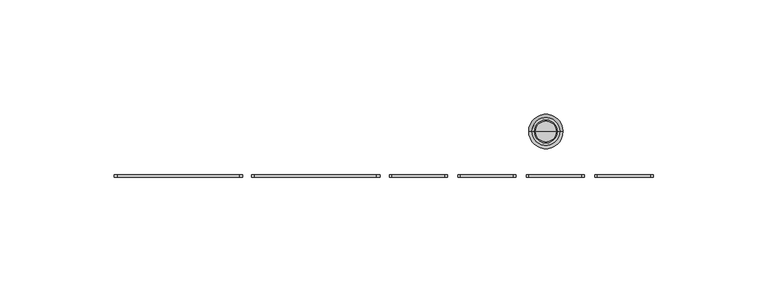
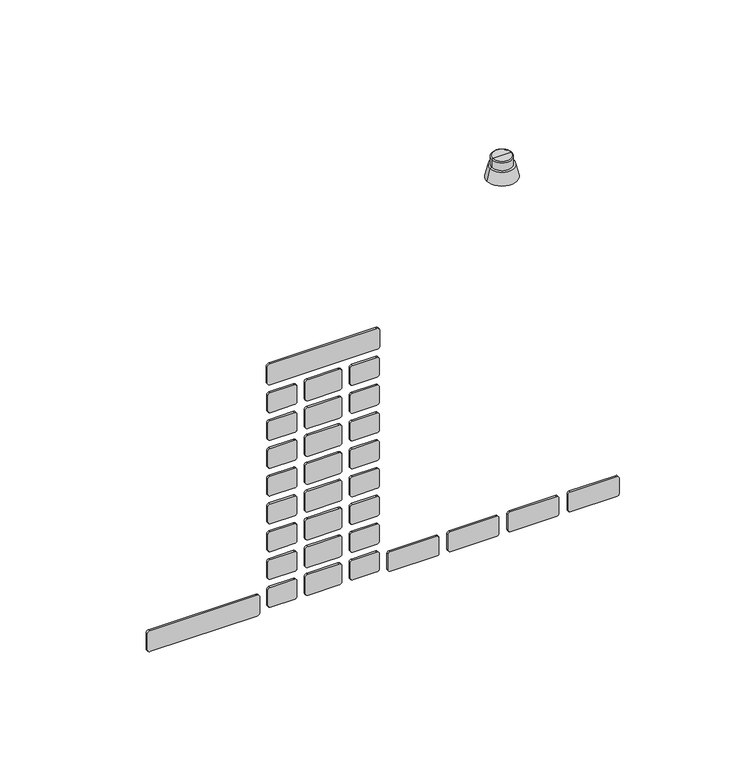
"""IFC4 building model written with IfcOpenShell, lengths in millimetres: alarm geometry, ППД 01_тип модель : ППД 01."""

from ifc_helpers import new_model, si_unit, point, frame, frame_2d, origin, place, context, project, spatial, polyline, circle_curve, ellipse_curve, trimmed, segment, composite_curve, outline, extrude, source, transform, mapped, element, save
from ifc_brep_helpers import plane_surface, cylinder_surface, revolved_surface, advanced_brep


def alarm_1ad1898b(model_context):
    return source(origin(), model_context, "Body", "SolidModel", [
        advanced_brep(
        [(70.7753012, -17.0032651, 0.0), (63.2753012, -17.0032651, 0.0), (78.2753012, -17.0032651, 0.0), (75.2753012, -17.0032651, 11.1), (66.2753012, -17.0032651, 11.1), (70.7753012, -17.0032651, 11.1), (75.7753012, -17.0032651, 10.6), (65.7753012, -17.0032651, 10.6), (75.7753012, -17.0032651, 6.5), (65.7753012, -17.0032651, 6.5), (76.828713, -17.0032651, 6.2674689), (64.7218893, -17.0032651, 6.2674689)],
        [
            (0, 1),
            (1, 2, circle_curve(frame((70.7753012, -17.0032651, 0.0), z_axis=(0.0, 0.0, -1.0), x_axis=(-1.0, 0.0, 0.0)), 7.5)),
            (2, 0),
            (2, 1, circle_curve(frame((70.7753012, -17.0032651, 0.0), z_axis=(0.0, 0.0, -1.0), x_axis=(-1.0, 0.0, 0.0)), 7.5)),
            (3, 4, circle_curve(frame((70.7753012, -17.0032651, 11.1), z_axis=(0.0, 0.0, 1.0), x_axis=(-1.0, 0.0, 0.0)), 4.5)),
            (4, 5),
            (5, 3),
            (4, 3, circle_curve(frame((70.7753012, -17.0032651, 11.1), z_axis=(0.0, 0.0, 1.0), x_axis=(-1.0, 0.0, 0.0)), 4.5)),
            (6, 7, circle_curve(frame((70.7753012, -17.0032651, 10.6), z_axis=(0.0, 0.0, 1.0), x_axis=(-1.0, 0.0, 0.0)), 5.0)),
            (7, 4, circle_curve(frame((66.2753012, -17.0032651, 10.6), z_axis=(0.0, 1.0, 0.0), x_axis=(-1.0, 0.0, 0.0)), 0.5)),
            (3, 6, circle_curve(frame((75.2753012, -17.0032651, 10.6), z_axis=(0.0, 1.0, 0.0), x_axis=(1.0, 0.0, 0.0)), 0.5)),
            (7, 6, circle_curve(frame((70.7753012, -17.0032651, 10.6), z_axis=(0.0, 0.0, 1.0), x_axis=(-1.0, 0.0, 0.0)), 5.0)),
            (8, 9, circle_curve(frame((70.7753012, -17.0032651, 6.5), z_axis=(0.0, 0.0, 1.0), x_axis=(-1.0, 0.0, 0.0)), 5.0)),
            (9, 7),
            (6, 8),
            (9, 8, circle_curve(frame((70.7753012, -17.0032651, 6.5), z_axis=(0.0, 0.0, 1.0), x_axis=(-1.0, 0.0, 0.0)), 5.0)),
            (10, 11, circle_curve(frame((70.7753012, -17.0032651, 6.2674689), z_axis=(0.0, 0.0, 1.0), x_axis=(-1.0, 0.0, 0.0)), 6.0534118)),
            (11, 9, circle_curve(frame((65.6028808, -17.0032651, 4.7787511), z_axis=(0.0, 1.0, 0.0), x_axis=(1.0, 0.0, 0.0)), 1.7298631)),
            (8, 10, circle_curve(frame((75.9477216, -17.0032651, 4.7787511), z_axis=(0.0, 1.0, 0.0), x_axis=(-1.0, 0.0, 0.0)), 1.7298631)),
            (11, 10, circle_curve(frame((70.7753012, -17.0032651, 6.2674689), z_axis=(0.0, 0.0, 1.0), x_axis=(-1.0, 0.0, 0.0)), 6.0534118)),
            (1, 11),
            (10, 2),
        ],
        [
            plane_surface(frame((70.7753012, -17.0032651, 0.0), z_axis=(0.0, 0.0, -1.0), x_axis=(-1.0, 0.0, 0.0))),
            plane_surface(frame((70.7753012, -17.0032651, 11.1), z_axis=(0.0, 0.0, 1.0), x_axis=(-1.0, 0.0, 0.0))),
            revolved_surface(trimmed(ellipse_curve(frame((66.2753012, -17.0032651, 10.6), z_axis=(0.0, -1.0, 0.0), x_axis=(-1.0, 0.0, 0.0)), 0.5, 0.5), [point((66.2753012, -17.0032651, 11.1))], [point((65.7753012, -17.0032651, 10.6))], True, "CARTESIAN"), (70.7753012, -17.0032651, 11.0), (0.0, 0.0, -1.0)),
            cylinder_surface(frame((70.7753012, -17.0032651, 11.0), z_axis=(0.0, 0.0, -1.0), x_axis=(-1.0, 0.0, 0.0)), 5.0),
            revolved_surface(trimmed(ellipse_curve(frame((65.6028808, -17.0032651, 4.7787511), z_axis=(0.0, -1.0, 0.0), x_axis=(1.0, 0.0, 0.0)), 1.7298631, 1.7298631), [point((65.7753012, -17.0032651, 6.5))], [point((64.7218893, -17.0032651, 6.2674689))], True, "CARTESIAN"), (70.7753012, -17.0032651, 11.0), (0.0, 0.0, -1.0)),
            revolved_surface(polyline([(64.7218893, -17.0032651, 6.2674689), (63.2753012, -17.0032651, 0.0)]), (70.7753012, -17.0032651, 11.0), (0.0, 0.0, -1.0)),
        ],
        [
            (0, [[1, 2, 3]]),
            (0, [[-3, 4, -1]]),
            (1, [[5, 6, 7]]),
            (1, [[8, -7, -6]]),
            (2, [[9, 10, -5, 11]]),
            (2, [[12, -11, -8, -10]]),
            (3, [[13, 14, -9, 15]]),
            (3, [[16, -15, -12, -14]]),
            (4, [[17, 18, -13, 19]]),
            (4, [[20, -19, -16, -18]]),
            (5, [[-2, 21, -17, 22]]),
            (5, [[-4, -22, -20, -21]]),
        ],
    ),
        extrude(outline(composite_curve([segment(polyline([(-52.1038728, -1.8554259), (-43.765464, -1.8554259)]), True, "CONTINUOUS"), segment(trimmed(circle_curve(frame_2d((-43.7985577, -3.2201297)), 1.365105), [point((-43.765464, -1.8554259))], [point((-42.4346684, -3.2777299))], False, "CARTESIAN"), True, "CONTINUOUS"), segment(polyline([(-42.4346684, -3.2777299), (-42.4346684, -56.5484203)]), True, "CONTINUOUS"), segment(trimmed(circle_curve(frame_2d((-43.7985577, -56.6060205)), 1.365105), [point((-42.4346684, -56.5484203))], [point((-43.765464, -57.9707243))], False, "CARTESIAN"), True, "CONTINUOUS"), segment(polyline([(-43.765464, -57.9707243), (-52.1038728, -57.9707243)]), True, "CONTINUOUS"), segment(trimmed(circle_curve(frame_2d((-52.0227494, -56.5610809)), 1.4119758), [point((-52.1038728, -57.9707243))], [point((-53.4346684, -56.5484203))], False, "CARTESIAN"), True, "CONTINUOUS"), segment(polyline([(-53.4346684, -56.5484203), (-53.4346684, -3.2777299)]), True, "CONTINUOUS"), segment(trimmed(circle_curve(frame_2d((-52.0707791, -3.2201297)), 1.365105), [point((-53.4346684, -3.2777299))], [point((-52.1038728, -1.8554259))], False, "CARTESIAN"), True, "CONTINUOUS")], self_intersect=False)), frame((0.0, -37.0, 0.0), z_axis=(0.0, 1.0, 0.0), x_axis=(0.0, 0.0, 1.0)), (0.0, 0.0, 1.0), 1.0),
        extrude(outline(composite_curve([segment(trimmed(circle_curve(frame_2d((-169.8360072, -37.7013738)), 1.3871535), [point((-169.959734, -39.0829984))], [point((-171.2226684, -37.6644203))], False, "CARTESIAN"), True, "CONTINUOUS"), segment(polyline([(-171.2226684, -37.6644203), (-171.2158127, -21.9839662)]), True, "CONTINUOUS"), segment(trimmed(circle_curve(frame_2d((-169.8457677, -22.0793086)), 1.3733585), [point((-171.2158127, -21.9839662))], [point((-169.8918728, -20.7067243))], False, "CARTESIAN"), True, "CONTINUOUS"), segment(polyline([(-169.8918728, -20.7067243), (-161.4180396, -20.7139774)]), True, "CONTINUOUS"), segment(trimmed(circle_curve(frame_2d((-161.6187815, -22.0959784)), 1.3965042), [point((-161.4180396, -20.7139774))], [point((-160.2226684, -22.1290283))], False, "CARTESIAN"), True, "CONTINUOUS"), segment(polyline([(-160.2226684, -22.1290283), (-160.2226684, -37.6644203)]), True, "CONTINUOUS"), segment(trimmed(circle_curve(frame_2d((-161.6063453, -37.7035059)), 1.3842289), [point((-160.2226684, -37.6644203))], [point((-161.4919336, -39.0829984))], False, "CARTESIAN"), True, "CONTINUOUS"), segment(polyline([(-161.4919336, -39.0829984), (-169.959734, -39.0829984)]), True, "CONTINUOUS")], self_intersect=False)), frame((0.0, -37.0, 0.0), z_axis=(0.0, 1.0, 0.0), x_axis=(0.0, 0.0, 1.0)), (0.0, 0.0, 1.0), 1.0),
        extrude(outline(composite_curve([segment(polyline([(-169.8918728, -43.2707243), (-161.553464, -43.2707243)]), True, "CONTINUOUS"), segment(trimmed(circle_curve(frame_2d((-161.701105, -44.4432617)), 1.1817961), [point((-161.553464, -43.2707243))], [point((-160.5226684, -44.3542159))], False, "CARTESIAN"), True, "CONTINUOUS"), segment(polyline([(-160.5226684, -44.3542159), (-160.5226684, -56.5872327)]), True, "CONTINUOUS"), segment(trimmed(circle_curve(frame_2d((-161.701105, -56.4981868)), 1.1817961), [point((-160.5226684, -56.5872327))], [point((-161.553464, -57.6707243))], False, "CARTESIAN"), True, "CONTINUOUS"), segment(polyline([(-161.553464, -57.6707243), (-169.8918728, -57.6707243)]), True, "CONTINUOUS"), segment(trimmed(circle_curve(frame_2d((-169.7442318, -56.4981868)), 1.1817961), [point((-169.8918728, -57.6707243))], [point((-170.9226684, -56.5872327))], False, "CARTESIAN"), True, "CONTINUOUS"), segment(polyline([(-170.9226684, -56.5872327), (-170.9226684, -44.3542159)]), True, "CONTINUOUS"), segment(trimmed(circle_curve(frame_2d((-169.7442318, -44.4432617)), 1.1817961), [point((-170.9226684, -44.3542159))], [point((-169.8918728, -43.2707243))], False, "CARTESIAN"), True, "CONTINUOUS")], self_intersect=False)), frame((0.0, -37.0, 0.0), z_axis=(0.0, 1.0, 0.0), x_axis=(0.0, 0.0, 1.0)), (0.0, 0.0, 1.0), 1.0),
        extrude(outline(composite_curve([segment(polyline([(-161.553464, -16.5227243), (-169.8918728, -16.5227243)]), True, "CONTINUOUS"), segment(trimmed(circle_curve(frame_2d((-169.7442318, -15.3501868)), 1.1817961), [point((-169.8918728, -16.5227243))], [point((-170.9226684, -15.4392327))], False, "CARTESIAN"), True, "CONTINUOUS"), segment(polyline([(-170.9226684, -15.4392327), (-170.9226684, -3.2062159)]), True, "CONTINUOUS"), segment(trimmed(circle_curve(frame_2d((-169.7442318, -3.2952617)), 1.1817961), [point((-170.9226684, -3.2062159))], [point((-169.8918728, -2.1227243))], False, "CARTESIAN"), True, "CONTINUOUS"), segment(polyline([(-169.8918728, -2.1227243), (-161.553464, -2.1227243)]), True, "CONTINUOUS"), segment(trimmed(circle_curve(frame_2d((-161.701105, -3.2952617)), 1.1817961), [point((-161.553464, -2.1227243))], [point((-160.5226684, -3.2062159))], False, "CARTESIAN"), True, "CONTINUOUS"), segment(polyline([(-160.5226684, -3.2062159), (-160.5226684, -15.4392327)]), True, "CONTINUOUS"), segment(trimmed(circle_curve(frame_2d((-161.701105, -15.3501868)), 1.1817961), [point((-160.5226684, -15.4392327))], [point((-161.553464, -16.5227243))], False, "CARTESIAN"), True, "CONTINUOUS")], self_intersect=False)), frame((0.0, -37.0, 0.0), z_axis=(0.0, 1.0, 0.0), x_axis=(0.0, 0.0, 1.0)), (0.0, 0.0, 1.0), 1.0),
        extrude(outline(composite_curve([segment(trimmed(circle_curve(frame_2d((-155.1500072, -37.7013738)), 1.3871535), [point((-155.273734, -39.0829984))], [point((-156.5366684, -37.6644203))], False, "CARTESIAN"), True, "CONTINUOUS"), segment(polyline([(-156.5366684, -37.6644203), (-156.5298127, -21.9839662)]), True, "CONTINUOUS"), segment(trimmed(circle_curve(frame_2d((-155.1597677, -22.0793086)), 1.3733585), [point((-156.5298127, -21.9839662))], [point((-155.2058728, -20.7067243))], False, "CARTESIAN"), True, "CONTINUOUS"), segment(polyline([(-155.2058728, -20.7067243), (-146.7320396, -20.7139774)]), True, "CONTINUOUS"), segment(trimmed(circle_curve(frame_2d((-146.9327815, -22.0959784)), 1.3965042), [point((-146.7320396, -20.7139774))], [point((-145.5366684, -22.1290283))], False, "CARTESIAN"), True, "CONTINUOUS"), segment(polyline([(-145.5366684, -22.1290283), (-145.5366684, -37.6644203)]), True, "CONTINUOUS"), segment(trimmed(circle_curve(frame_2d((-146.9203453, -37.7035059)), 1.3842289), [point((-145.5366684, -37.6644203))], [point((-146.8059336, -39.0829984))], False, "CARTESIAN"), True, "CONTINUOUS"), segment(polyline([(-146.8059336, -39.0829984), (-155.273734, -39.0829984)]), True, "CONTINUOUS")], self_intersect=False)), frame((0.0, -37.0, 0.0), z_axis=(0.0, 1.0, 0.0), x_axis=(0.0, 0.0, 1.0)), (0.0, 0.0, 1.0), 1.0),
        extrude(outline(composite_curve([segment(polyline([(-155.2058728, -43.2707243), (-146.867464, -43.2707243)]), True, "CONTINUOUS"), segment(trimmed(circle_curve(frame_2d((-147.015105, -44.4432617)), 1.1817961), [point((-146.867464, -43.2707243))], [point((-145.8366684, -44.3542159))], False, "CARTESIAN"), True, "CONTINUOUS"), segment(polyline([(-145.8366684, -44.3542159), (-145.8366684, -56.5872327)]), True, "CONTINUOUS"), segment(trimmed(circle_curve(frame_2d((-147.015105, -56.4981868)), 1.1817961), [point((-145.8366684, -56.5872327))], [point((-146.867464, -57.6707243))], False, "CARTESIAN"), True, "CONTINUOUS"), segment(polyline([(-146.867464, -57.6707243), (-155.2058728, -57.6707243)]), True, "CONTINUOUS"), segment(trimmed(circle_curve(frame_2d((-155.0582318, -56.4981868)), 1.1817961), [point((-155.2058728, -57.6707243))], [point((-156.2366684, -56.5872327))], False, "CARTESIAN"), True, "CONTINUOUS"), segment(polyline([(-156.2366684, -56.5872327), (-156.2366684, -44.3542159)]), True, "CONTINUOUS"), segment(trimmed(circle_curve(frame_2d((-155.0582318, -44.4432617)), 1.1817961), [point((-156.2366684, -44.3542159))], [point((-155.2058728, -43.2707243))], False, "CARTESIAN"), True, "CONTINUOUS")], self_intersect=False)), frame((0.0, -37.0, 0.0), z_axis=(0.0, 1.0, 0.0), x_axis=(0.0, 0.0, 1.0)), (0.0, 0.0, 1.0), 1.0),
        extrude(outline(composite_curve([segment(polyline([(-146.867464, -16.5227243), (-155.2058728, -16.5227243)]), True, "CONTINUOUS"), segment(trimmed(circle_curve(frame_2d((-155.0582318, -15.3501868)), 1.1817961), [point((-155.2058728, -16.5227243))], [point((-156.2366684, -15.4392327))], False, "CARTESIAN"), True, "CONTINUOUS"), segment(polyline([(-156.2366684, -15.4392327), (-156.2366684, -3.2062159)]), True, "CONTINUOUS"), segment(trimmed(circle_curve(frame_2d((-155.0582318, -3.2952617)), 1.1817961), [point((-156.2366684, -3.2062159))], [point((-155.2058728, -2.1227243))], False, "CARTESIAN"), True, "CONTINUOUS"), segment(polyline([(-155.2058728, -2.1227243), (-146.867464, -2.1227243)]), True, "CONTINUOUS"), segment(trimmed(circle_curve(frame_2d((-147.015105, -3.2952617)), 1.1817961), [point((-146.867464, -2.1227243))], [point((-145.8366684, -3.2062159))], False, "CARTESIAN"), True, "CONTINUOUS"), segment(polyline([(-145.8366684, -3.2062159), (-145.8366684, -15.4392327)]), True, "CONTINUOUS"), segment(trimmed(circle_curve(frame_2d((-147.015105, -15.3501868)), 1.1817961), [point((-145.8366684, -15.4392327))], [point((-146.867464, -16.5227243))], False, "CARTESIAN"), True, "CONTINUOUS")], self_intersect=False)), frame((0.0, -37.0, 0.0), z_axis=(0.0, 1.0, 0.0), x_axis=(0.0, 0.0, 1.0)), (0.0, 0.0, 1.0), 1.0),
        extrude(outline(composite_curve([segment(trimmed(circle_curve(frame_2d((-140.4640072, -37.7013738)), 1.3871535), [point((-140.587734, -39.0829984))], [point((-141.8506684, -37.6644203))], False, "CARTESIAN"), True, "CONTINUOUS"), segment(polyline([(-141.8506684, -37.6644203), (-141.8438127, -21.9839662)]), True, "CONTINUOUS"), segment(trimmed(circle_curve(frame_2d((-140.4737677, -22.0793086)), 1.3733585), [point((-141.8438127, -21.9839662))], [point((-140.5198728, -20.7067243))], False, "CARTESIAN"), True, "CONTINUOUS"), segment(polyline([(-140.5198728, -20.7067243), (-132.0460396, -20.7139774)]), True, "CONTINUOUS"), segment(trimmed(circle_curve(frame_2d((-132.2467815, -22.0959784)), 1.3965042), [point((-132.0460396, -20.7139774))], [point((-130.8506684, -22.1290283))], False, "CARTESIAN"), True, "CONTINUOUS"), segment(polyline([(-130.8506684, -22.1290283), (-130.8506684, -37.6644203)]), True, "CONTINUOUS"), segment(trimmed(circle_curve(frame_2d((-132.2343453, -37.7035059)), 1.3842289), [point((-130.8506684, -37.6644203))], [point((-132.1199336, -39.0829984))], False, "CARTESIAN"), True, "CONTINUOUS"), segment(polyline([(-132.1199336, -39.0829984), (-140.587734, -39.0829984)]), True, "CONTINUOUS")], self_intersect=False)), frame((0.0, -37.0, 0.0), z_axis=(0.0, 1.0, 0.0), x_axis=(0.0, 0.0, 1.0)), (0.0, 0.0, 1.0), 1.0),
        extrude(outline(composite_curve([segment(polyline([(-140.5198728, -43.2707243), (-132.181464, -43.2707243)]), True, "CONTINUOUS"), segment(trimmed(circle_curve(frame_2d((-132.329105, -44.4432617)), 1.1817961), [point((-132.181464, -43.2707243))], [point((-131.1506684, -44.3542159))], False, "CARTESIAN"), True, "CONTINUOUS"), segment(polyline([(-131.1506684, -44.3542159), (-131.1506684, -56.5872327)]), True, "CONTINUOUS"), segment(trimmed(circle_curve(frame_2d((-132.329105, -56.4981868)), 1.1817961), [point((-131.1506684, -56.5872327))], [point((-132.181464, -57.6707243))], False, "CARTESIAN"), True, "CONTINUOUS"), segment(polyline([(-132.181464, -57.6707243), (-140.5198728, -57.6707243)]), True, "CONTINUOUS"), segment(trimmed(circle_curve(frame_2d((-140.3722318, -56.4981868)), 1.1817961), [point((-140.5198728, -57.6707243))], [point((-141.5506684, -56.5872327))], False, "CARTESIAN"), True, "CONTINUOUS"), segment(polyline([(-141.5506684, -56.5872327), (-141.5506684, -44.3542159)]), True, "CONTINUOUS"), segment(trimmed(circle_curve(frame_2d((-140.3722318, -44.4432617)), 1.1817961), [point((-141.5506684, -44.3542159))], [point((-140.5198728, -43.2707243))], False, "CARTESIAN"), True, "CONTINUOUS")], self_intersect=False)), frame((0.0, -37.0, 0.0), z_axis=(0.0, 1.0, 0.0), x_axis=(0.0, 0.0, 1.0)), (0.0, 0.0, 1.0), 1.0),
        extrude(outline(composite_curve([segment(polyline([(-132.181464, -16.5227243), (-140.5198728, -16.5227243)]), True, "CONTINUOUS"), segment(trimmed(circle_curve(frame_2d((-140.3722318, -15.3501868)), 1.1817961), [point((-140.5198728, -16.5227243))], [point((-141.5506684, -15.4392327))], False, "CARTESIAN"), True, "CONTINUOUS"), segment(polyline([(-141.5506684, -15.4392327), (-141.5506684, -3.2062159)]), True, "CONTINUOUS"), segment(trimmed(circle_curve(frame_2d((-140.3722318, -3.2952617)), 1.1817961), [point((-141.5506684, -3.2062159))], [point((-140.5198728, -2.1227243))], False, "CARTESIAN"), True, "CONTINUOUS"), segment(polyline([(-140.5198728, -2.1227243), (-132.181464, -2.1227243)]), True, "CONTINUOUS"), segment(trimmed(circle_curve(frame_2d((-132.329105, -3.2952617)), 1.1817961), [point((-132.181464, -2.1227243))], [point((-131.1506684, -3.2062159))], False, "CARTESIAN"), True, "CONTINUOUS"), segment(polyline([(-131.1506684, -3.2062159), (-131.1506684, -15.4392327)]), True, "CONTINUOUS"), segment(trimmed(circle_curve(frame_2d((-132.329105, -15.3501868)), 1.1817961), [point((-131.1506684, -15.4392327))], [point((-132.181464, -16.5227243))], False, "CARTESIAN"), True, "CONTINUOUS")], self_intersect=False)), frame((0.0, -37.0, 0.0), z_axis=(0.0, 1.0, 0.0), x_axis=(0.0, 0.0, 1.0)), (0.0, 0.0, 1.0), 1.0),
        extrude(outline(composite_curve([segment(trimmed(circle_curve(frame_2d((-125.7780072, -37.7013738)), 1.3871535), [point((-125.901734, -39.0829984))], [point((-127.1646684, -37.6644203))], False, "CARTESIAN"), True, "CONTINUOUS"), segment(polyline([(-127.1646684, -37.6644203), (-127.1578127, -21.9839662)]), True, "CONTINUOUS"), segment(trimmed(circle_curve(frame_2d((-125.7877677, -22.0793086)), 1.3733585), [point((-127.1578127, -21.9839662))], [point((-125.8338728, -20.7067243))], False, "CARTESIAN"), True, "CONTINUOUS"), segment(polyline([(-125.8338728, -20.7067243), (-117.3600396, -20.7139774)]), True, "CONTINUOUS"), segment(trimmed(circle_curve(frame_2d((-117.5607815, -22.0959784)), 1.3965042), [point((-117.3600396, -20.7139774))], [point((-116.1646684, -22.1290283))], False, "CARTESIAN"), True, "CONTINUOUS"), segment(polyline([(-116.1646684, -22.1290283), (-116.1646684, -37.6644203)]), True, "CONTINUOUS"), segment(trimmed(circle_curve(frame_2d((-117.5483453, -37.7035059)), 1.3842289), [point((-116.1646684, -37.6644203))], [point((-117.4339336, -39.0829984))], False, "CARTESIAN"), True, "CONTINUOUS"), segment(polyline([(-117.4339336, -39.0829984), (-125.901734, -39.0829984)]), True, "CONTINUOUS")], self_intersect=False)), frame((0.0, -37.0, 0.0), z_axis=(0.0, 1.0, 0.0), x_axis=(0.0, 0.0, 1.0)), (0.0, 0.0, 1.0), 1.0),
        extrude(outline(composite_curve([segment(polyline([(-125.8338728, -43.2707243), (-117.495464, -43.2707243)]), True, "CONTINUOUS"), segment(trimmed(circle_curve(frame_2d((-117.643105, -44.4432617)), 1.1817961), [point((-117.495464, -43.2707243))], [point((-116.4646684, -44.3542159))], False, "CARTESIAN"), True, "CONTINUOUS"), segment(polyline([(-116.4646684, -44.3542159), (-116.4646684, -56.5872327)]), True, "CONTINUOUS"), segment(trimmed(circle_curve(frame_2d((-117.643105, -56.4981868)), 1.1817961), [point((-116.4646684, -56.5872327))], [point((-117.495464, -57.6707243))], False, "CARTESIAN"), True, "CONTINUOUS"), segment(polyline([(-117.495464, -57.6707243), (-125.8338728, -57.6707243)]), True, "CONTINUOUS"), segment(trimmed(circle_curve(frame_2d((-125.6862318, -56.4981868)), 1.1817961), [point((-125.8338728, -57.6707243))], [point((-126.8646684, -56.5872327))], False, "CARTESIAN"), True, "CONTINUOUS"), segment(polyline([(-126.8646684, -56.5872327), (-126.8646684, -44.3542159)]), True, "CONTINUOUS"), segment(trimmed(circle_curve(frame_2d((-125.6862318, -44.4432617)), 1.1817961), [point((-126.8646684, -44.3542159))], [point((-125.8338728, -43.2707243))], False, "CARTESIAN"), True, "CONTINUOUS")], self_intersect=False)), frame((0.0, -37.0, 0.0), z_axis=(0.0, 1.0, 0.0), x_axis=(0.0, 0.0, 1.0)), (0.0, 0.0, 1.0), 1.0),
        extrude(outline(composite_curve([segment(polyline([(-117.495464, -16.5227243), (-125.8338728, -16.5227243)]), True, "CONTINUOUS"), segment(trimmed(circle_curve(frame_2d((-125.6862318, -15.3501868)), 1.1817961), [point((-125.8338728, -16.5227243))], [point((-126.8646684, -15.4392327))], False, "CARTESIAN"), True, "CONTINUOUS"), segment(polyline([(-126.8646684, -15.4392327), (-126.8646684, -3.2062159)]), True, "CONTINUOUS"), segment(trimmed(circle_curve(frame_2d((-125.6862318, -3.2952617)), 1.1817961), [point((-126.8646684, -3.2062159))], [point((-125.8338728, -2.1227243))], False, "CARTESIAN"), True, "CONTINUOUS"), segment(polyline([(-125.8338728, -2.1227243), (-117.495464, -2.1227243)]), True, "CONTINUOUS"), segment(trimmed(circle_curve(frame_2d((-117.643105, -3.2952617)), 1.1817961), [point((-117.495464, -2.1227243))], [point((-116.4646684, -3.2062159))], False, "CARTESIAN"), True, "CONTINUOUS"), segment(polyline([(-116.4646684, -3.2062159), (-116.4646684, -15.4392327)]), True, "CONTINUOUS"), segment(trimmed(circle_curve(frame_2d((-117.643105, -15.3501868)), 1.1817961), [point((-116.4646684, -15.4392327))], [point((-117.495464, -16.5227243))], False, "CARTESIAN"), True, "CONTINUOUS")], self_intersect=False)), frame((0.0, -37.0, 0.0), z_axis=(0.0, 1.0, 0.0), x_axis=(0.0, 0.0, 1.0)), (0.0, 0.0, 1.0), 1.0),
        extrude(outline(composite_curve([segment(trimmed(circle_curve(frame_2d((-111.0920072, -37.7013738)), 1.3871535), [point((-111.215734, -39.0829984))], [point((-112.4786684, -37.6644203))], False, "CARTESIAN"), True, "CONTINUOUS"), segment(polyline([(-112.4786684, -37.6644203), (-112.4718127, -21.9839662)]), True, "CONTINUOUS"), segment(trimmed(circle_curve(frame_2d((-111.1017677, -22.0793086)), 1.3733585), [point((-112.4718127, -21.9839662))], [point((-111.1478728, -20.7067243))], False, "CARTESIAN"), True, "CONTINUOUS"), segment(polyline([(-111.1478728, -20.7067243), (-102.6740396, -20.7139774)]), True, "CONTINUOUS"), segment(trimmed(circle_curve(frame_2d((-102.8747815, -22.0959784)), 1.3965042), [point((-102.6740396, -20.7139774))], [point((-101.4786684, -22.1290283))], False, "CARTESIAN"), True, "CONTINUOUS"), segment(polyline([(-101.4786684, -22.1290283), (-101.4786684, -37.6644203)]), True, "CONTINUOUS"), segment(trimmed(circle_curve(frame_2d((-102.8623453, -37.7035059)), 1.3842289), [point((-101.4786684, -37.6644203))], [point((-102.7479336, -39.0829984))], False, "CARTESIAN"), True, "CONTINUOUS"), segment(polyline([(-102.7479336, -39.0829984), (-111.215734, -39.0829984)]), True, "CONTINUOUS")], self_intersect=False)), frame((0.0, -37.0, 0.0), z_axis=(0.0, 1.0, 0.0), x_axis=(0.0, 0.0, 1.0)), (0.0, 0.0, 1.0), 1.0),
        extrude(outline(composite_curve([segment(polyline([(-111.1478728, -43.2707243), (-102.809464, -43.2707243)]), True, "CONTINUOUS"), segment(trimmed(circle_curve(frame_2d((-102.957105, -44.4432617)), 1.1817961), [point((-102.809464, -43.2707243))], [point((-101.7786684, -44.3542159))], False, "CARTESIAN"), True, "CONTINUOUS"), segment(polyline([(-101.7786684, -44.3542159), (-101.7786684, -56.5872327)]), True, "CONTINUOUS"), segment(trimmed(circle_curve(frame_2d((-102.957105, -56.4981868)), 1.1817961), [point((-101.7786684, -56.5872327))], [point((-102.809464, -57.6707243))], False, "CARTESIAN"), True, "CONTINUOUS"), segment(polyline([(-102.809464, -57.6707243), (-111.1478728, -57.6707243)]), True, "CONTINUOUS"), segment(trimmed(circle_curve(frame_2d((-111.0002318, -56.4981868)), 1.1817961), [point((-111.1478728, -57.6707243))], [point((-112.1786684, -56.5872327))], False, "CARTESIAN"), True, "CONTINUOUS"), segment(polyline([(-112.1786684, -56.5872327), (-112.1786684, -44.3542159)]), True, "CONTINUOUS"), segment(trimmed(circle_curve(frame_2d((-111.0002318, -44.4432617)), 1.1817961), [point((-112.1786684, -44.3542159))], [point((-111.1478728, -43.2707243))], False, "CARTESIAN"), True, "CONTINUOUS")], self_intersect=False)), frame((0.0, -37.0, 0.0), z_axis=(0.0, 1.0, 0.0), x_axis=(0.0, 0.0, 1.0)), (0.0, 0.0, 1.0), 1.0),
        extrude(outline(composite_curve([segment(polyline([(-102.809464, -16.5227243), (-111.1478728, -16.5227243)]), True, "CONTINUOUS"), segment(trimmed(circle_curve(frame_2d((-111.0002318, -15.3501868)), 1.1817961), [point((-111.1478728, -16.5227243))], [point((-112.1786684, -15.4392327))], False, "CARTESIAN"), True, "CONTINUOUS"), segment(polyline([(-112.1786684, -15.4392327), (-112.1786684, -3.2062159)]), True, "CONTINUOUS"), segment(trimmed(circle_curve(frame_2d((-111.0002318, -3.2952617)), 1.1817961), [point((-112.1786684, -3.2062159))], [point((-111.1478728, -2.1227243))], False, "CARTESIAN"), True, "CONTINUOUS"), segment(polyline([(-111.1478728, -2.1227243), (-102.809464, -2.1227243)]), True, "CONTINUOUS"), segment(trimmed(circle_curve(frame_2d((-102.957105, -3.2952617)), 1.1817961), [point((-102.809464, -2.1227243))], [point((-101.7786684, -3.2062159))], False, "CARTESIAN"), True, "CONTINUOUS"), segment(polyline([(-101.7786684, -3.2062159), (-101.7786684, -15.4392327)]), True, "CONTINUOUS"), segment(trimmed(circle_curve(frame_2d((-102.957105, -15.3501868)), 1.1817961), [point((-101.7786684, -15.4392327))], [point((-102.809464, -16.5227243))], False, "CARTESIAN"), True, "CONTINUOUS")], self_intersect=False)), frame((0.0, -37.0, 0.0), z_axis=(0.0, 1.0, 0.0), x_axis=(0.0, 0.0, 1.0)), (0.0, 0.0, 1.0), 1.0),
        extrude(outline(composite_curve([segment(trimmed(circle_curve(frame_2d((-96.4060072, -37.7013738)), 1.3871535), [point((-96.529734, -39.0829984))], [point((-97.7926684, -37.6644203))], False, "CARTESIAN"), True, "CONTINUOUS"), segment(polyline([(-97.7926684, -37.6644203), (-97.7858127, -21.9839662)]), True, "CONTINUOUS"), segment(trimmed(circle_curve(frame_2d((-96.4157677, -22.0793086)), 1.3733585), [point((-97.7858127, -21.9839662))], [point((-96.4618728, -20.7067243))], False, "CARTESIAN"), True, "CONTINUOUS"), segment(polyline([(-96.4618728, -20.7067243), (-87.9880396, -20.7139774)]), True, "CONTINUOUS"), segment(trimmed(circle_curve(frame_2d((-88.1887815, -22.0959784)), 1.3965042), [point((-87.9880396, -20.7139774))], [point((-86.7926684, -22.1290283))], False, "CARTESIAN"), True, "CONTINUOUS"), segment(polyline([(-86.7926684, -22.1290283), (-86.7926684, -37.6644203)]), True, "CONTINUOUS"), segment(trimmed(circle_curve(frame_2d((-88.1763453, -37.7035059)), 1.3842289), [point((-86.7926684, -37.6644203))], [point((-88.0619336, -39.0829984))], False, "CARTESIAN"), True, "CONTINUOUS"), segment(polyline([(-88.0619336, -39.0829984), (-96.529734, -39.0829984)]), True, "CONTINUOUS")], self_intersect=False)), frame((0.0, -37.0, 0.0), z_axis=(0.0, 1.0, 0.0), x_axis=(0.0, 0.0, 1.0)), (0.0, 0.0, 1.0), 1.0),
        extrude(outline(composite_curve([segment(polyline([(-96.4618728, -43.2707243), (-88.123464, -43.2707243)]), True, "CONTINUOUS"), segment(trimmed(circle_curve(frame_2d((-88.271105, -44.4432617)), 1.1817961), [point((-88.123464, -43.2707243))], [point((-87.0926684, -44.3542159))], False, "CARTESIAN"), True, "CONTINUOUS"), segment(polyline([(-87.0926684, -44.3542159), (-87.0926684, -56.5872327)]), True, "CONTINUOUS"), segment(trimmed(circle_curve(frame_2d((-88.271105, -56.4981868)), 1.1817961), [point((-87.0926684, -56.5872327))], [point((-88.123464, -57.6707243))], False, "CARTESIAN"), True, "CONTINUOUS"), segment(polyline([(-88.123464, -57.6707243), (-96.4618728, -57.6707243)]), True, "CONTINUOUS"), segment(trimmed(circle_curve(frame_2d((-96.3142318, -56.4981868)), 1.1817961), [point((-96.4618728, -57.6707243))], [point((-97.4926684, -56.5872327))], False, "CARTESIAN"), True, "CONTINUOUS"), segment(polyline([(-97.4926684, -56.5872327), (-97.4926684, -44.3542159)]), True, "CONTINUOUS"), segment(trimmed(circle_curve(frame_2d((-96.3142318, -44.4432617)), 1.1817961), [point((-97.4926684, -44.3542159))], [point((-96.4618728, -43.2707243))], False, "CARTESIAN"), True, "CONTINUOUS")], self_intersect=False)), frame((0.0, -37.0, 0.0), z_axis=(0.0, 1.0, 0.0), x_axis=(0.0, 0.0, 1.0)), (0.0, 0.0, 1.0), 1.0),
        extrude(outline(composite_curve([segment(polyline([(-88.123464, -16.5227243), (-96.4618728, -16.5227243)]), True, "CONTINUOUS"), segment(trimmed(circle_curve(frame_2d((-96.3142318, -15.3501868)), 1.1817961), [point((-96.4618728, -16.5227243))], [point((-97.4926684, -15.4392327))], False, "CARTESIAN"), True, "CONTINUOUS"), segment(polyline([(-97.4926684, -15.4392327), (-97.4926684, -3.2062159)]), True, "CONTINUOUS"), segment(trimmed(circle_curve(frame_2d((-96.3142318, -3.2952617)), 1.1817961), [point((-97.4926684, -3.2062159))], [point((-96.4618728, -2.1227243))], False, "CARTESIAN"), True, "CONTINUOUS"), segment(polyline([(-96.4618728, -2.1227243), (-88.123464, -2.1227243)]), True, "CONTINUOUS"), segment(trimmed(circle_curve(frame_2d((-88.271105, -3.2952617)), 1.1817961), [point((-88.123464, -2.1227243))], [point((-87.0926684, -3.2062159))], False, "CARTESIAN"), True, "CONTINUOUS"), segment(polyline([(-87.0926684, -3.2062159), (-87.0926684, -15.4392327)]), True, "CONTINUOUS"), segment(trimmed(circle_curve(frame_2d((-88.271105, -15.3501868)), 1.1817961), [point((-87.0926684, -15.4392327))], [point((-88.123464, -16.5227243))], False, "CARTESIAN"), True, "CONTINUOUS")], self_intersect=False)), frame((0.0, -37.0, 0.0), z_axis=(0.0, 1.0, 0.0), x_axis=(0.0, 0.0, 1.0)), (0.0, 0.0, 1.0), 1.0),
        extrude(outline(composite_curve([segment(trimmed(circle_curve(frame_2d((-81.7200072, -37.7013738)), 1.3871535), [point((-81.843734, -39.0829984))], [point((-83.1066684, -37.6644203))], False, "CARTESIAN"), True, "CONTINUOUS"), segment(polyline([(-83.1066684, -37.6644203), (-83.0998127, -21.9839662)]), True, "CONTINUOUS"), segment(trimmed(circle_curve(frame_2d((-81.7297677, -22.0793086)), 1.3733585), [point((-83.0998127, -21.9839662))], [point((-81.7758728, -20.7067243))], False, "CARTESIAN"), True, "CONTINUOUS"), segment(polyline([(-81.7758728, -20.7067243), (-73.3020396, -20.7139774)]), True, "CONTINUOUS"), segment(trimmed(circle_curve(frame_2d((-73.5027815, -22.0959784)), 1.3965042), [point((-73.3020396, -20.7139774))], [point((-72.1066684, -22.1290283))], False, "CARTESIAN"), True, "CONTINUOUS"), segment(polyline([(-72.1066684, -22.1290283), (-72.1066684, -37.6644203)]), True, "CONTINUOUS"), segment(trimmed(circle_curve(frame_2d((-73.4903453, -37.7035059)), 1.3842289), [point((-72.1066684, -37.6644203))], [point((-73.3759336, -39.0829984))], False, "CARTESIAN"), True, "CONTINUOUS"), segment(polyline([(-73.3759336, -39.0829984), (-81.843734, -39.0829984)]), True, "CONTINUOUS")], self_intersect=False)), frame((0.0, -37.0, 0.0), z_axis=(0.0, 1.0, 0.0), x_axis=(0.0, 0.0, 1.0)), (0.0, 0.0, 1.0), 1.0),
        extrude(outline(composite_curve([segment(polyline([(-81.7758728, -43.2707243), (-73.437464, -43.2707243)]), True, "CONTINUOUS"), segment(trimmed(circle_curve(frame_2d((-73.585105, -44.4432617)), 1.1817961), [point((-73.437464, -43.2707243))], [point((-72.4066684, -44.3542159))], False, "CARTESIAN"), True, "CONTINUOUS"), segment(polyline([(-72.4066684, -44.3542159), (-72.4066684, -56.5872327)]), True, "CONTINUOUS"), segment(trimmed(circle_curve(frame_2d((-73.585105, -56.4981868)), 1.1817961), [point((-72.4066684, -56.5872327))], [point((-73.437464, -57.6707243))], False, "CARTESIAN"), True, "CONTINUOUS"), segment(polyline([(-73.437464, -57.6707243), (-81.7758728, -57.6707243)]), True, "CONTINUOUS"), segment(trimmed(circle_curve(frame_2d((-81.6282318, -56.4981868)), 1.1817961), [point((-81.7758728, -57.6707243))], [point((-82.8066684, -56.5872327))], False, "CARTESIAN"), True, "CONTINUOUS"), segment(polyline([(-82.8066684, -56.5872327), (-82.8066684, -44.3542159)]), True, "CONTINUOUS"), segment(trimmed(circle_curve(frame_2d((-81.6282318, -44.4432617)), 1.1817961), [point((-82.8066684, -44.3542159))], [point((-81.7758728, -43.2707243))], False, "CARTESIAN"), True, "CONTINUOUS")], self_intersect=False)), frame((0.0, -37.0, 0.0), z_axis=(0.0, 1.0, 0.0), x_axis=(0.0, 0.0, 1.0)), (0.0, 0.0, 1.0), 1.0),
        extrude(outline(composite_curve([segment(polyline([(-73.437464, -16.5227243), (-81.7758728, -16.5227243)]), True, "CONTINUOUS"), segment(trimmed(circle_curve(frame_2d((-81.6282318, -15.3501868)), 1.1817961), [point((-81.7758728, -16.5227243))], [point((-82.8066684, -15.4392327))], False, "CARTESIAN"), True, "CONTINUOUS"), segment(polyline([(-82.8066684, -15.4392327), (-82.8066684, -3.2062159)]), True, "CONTINUOUS"), segment(trimmed(circle_curve(frame_2d((-81.6282318, -3.2952617)), 1.1817961), [point((-82.8066684, -3.2062159))], [point((-81.7758728, -2.1227243))], False, "CARTESIAN"), True, "CONTINUOUS"), segment(polyline([(-81.7758728, -2.1227243), (-73.437464, -2.1227243)]), True, "CONTINUOUS"), segment(trimmed(circle_curve(frame_2d((-73.585105, -3.2952617)), 1.1817961), [point((-73.437464, -2.1227243))], [point((-72.4066684, -3.2062159))], False, "CARTESIAN"), True, "CONTINUOUS"), segment(polyline([(-72.4066684, -3.2062159), (-72.4066684, -15.4392327)]), True, "CONTINUOUS"), segment(trimmed(circle_curve(frame_2d((-73.585105, -15.3501868)), 1.1817961), [point((-72.4066684, -15.4392327))], [point((-73.437464, -16.5227243))], False, "CARTESIAN"), True, "CONTINUOUS")], self_intersect=False)), frame((0.0, -37.0, 0.0), z_axis=(0.0, 1.0, 0.0), x_axis=(0.0, 0.0, 1.0)), (0.0, 0.0, 1.0), 1.0),
        extrude(outline(composite_curve([segment(trimmed(circle_curve(frame_2d((-67.0340072, -37.7013738)), 1.3871535), [point((-67.157734, -39.0829984))], [point((-68.4206684, -37.6644203))], False, "CARTESIAN"), True, "CONTINUOUS"), segment(polyline([(-68.4206684, -37.6644203), (-68.4138127, -21.9839662)]), True, "CONTINUOUS"), segment(trimmed(circle_curve(frame_2d((-67.0437677, -22.0793086)), 1.3733585), [point((-68.4138127, -21.9839662))], [point((-67.0898728, -20.7067243))], False, "CARTESIAN"), True, "CONTINUOUS"), segment(polyline([(-67.0898728, -20.7067243), (-58.6160396, -20.7139774)]), True, "CONTINUOUS"), segment(trimmed(circle_curve(frame_2d((-58.8167815, -22.0959784)), 1.3965042), [point((-58.6160396, -20.7139774))], [point((-57.4206684, -22.1290283))], False, "CARTESIAN"), True, "CONTINUOUS"), segment(polyline([(-57.4206684, -22.1290283), (-57.4206684, -37.6644203)]), True, "CONTINUOUS"), segment(trimmed(circle_curve(frame_2d((-58.8043453, -37.7035059)), 1.3842289), [point((-57.4206684, -37.6644203))], [point((-58.6899336, -39.0829984))], False, "CARTESIAN"), True, "CONTINUOUS"), segment(polyline([(-58.6899336, -39.0829984), (-67.157734, -39.0829984)]), True, "CONTINUOUS")], self_intersect=False)), frame((0.0, -37.0, 0.0), z_axis=(0.0, 1.0, 0.0), x_axis=(0.0, 0.0, 1.0)), (0.0, 0.0, 1.0), 1.0),
        extrude(outline(composite_curve([segment(polyline([(-67.0898728, -43.2707243), (-58.751464, -43.2707243)]), True, "CONTINUOUS"), segment(trimmed(circle_curve(frame_2d((-58.899105, -44.4432617)), 1.1817961), [point((-58.751464, -43.2707243))], [point((-57.7206684, -44.3542159))], False, "CARTESIAN"), True, "CONTINUOUS"), segment(polyline([(-57.7206684, -44.3542159), (-57.7206684, -56.5872327)]), True, "CONTINUOUS"), segment(trimmed(circle_curve(frame_2d((-58.899105, -56.4981868)), 1.1817961), [point((-57.7206684, -56.5872327))], [point((-58.751464, -57.6707243))], False, "CARTESIAN"), True, "CONTINUOUS"), segment(polyline([(-58.751464, -57.6707243), (-67.0898728, -57.6707243)]), True, "CONTINUOUS"), segment(trimmed(circle_curve(frame_2d((-66.9422318, -56.4981868)), 1.1817961), [point((-67.0898728, -57.6707243))], [point((-68.1206684, -56.5872327))], False, "CARTESIAN"), True, "CONTINUOUS"), segment(polyline([(-68.1206684, -56.5872327), (-68.1206684, -44.3542159)]), True, "CONTINUOUS"), segment(trimmed(circle_curve(frame_2d((-66.9422318, -44.4432617)), 1.1817961), [point((-68.1206684, -44.3542159))], [point((-67.0898728, -43.2707243))], False, "CARTESIAN"), True, "CONTINUOUS")], self_intersect=False)), frame((0.0, -37.0, 0.0), z_axis=(0.0, 1.0, 0.0), x_axis=(0.0, 0.0, 1.0)), (0.0, 0.0, 1.0), 1.0),
        extrude(outline(composite_curve([segment(polyline([(-58.751464, -16.5227243), (-67.0898728, -16.5227243)]), True, "CONTINUOUS"), segment(trimmed(circle_curve(frame_2d((-66.9422318, -15.3501868)), 1.1817961), [point((-67.0898728, -16.5227243))], [point((-68.1206684, -15.4392327))], False, "CARTESIAN"), True, "CONTINUOUS"), segment(polyline([(-68.1206684, -15.4392327), (-68.1206684, -3.2062159)]), True, "CONTINUOUS"), segment(trimmed(circle_curve(frame_2d((-66.9422318, -3.2952617)), 1.1817961), [point((-68.1206684, -3.2062159))], [point((-67.0898728, -2.1227243))], False, "CARTESIAN"), True, "CONTINUOUS"), segment(polyline([(-67.0898728, -2.1227243), (-58.751464, -2.1227243)]), True, "CONTINUOUS"), segment(trimmed(circle_curve(frame_2d((-58.899105, -3.2952617)), 1.1817961), [point((-58.751464, -2.1227243))], [point((-57.7206684, -3.2062159))], False, "CARTESIAN"), True, "CONTINUOUS"), segment(polyline([(-57.7206684, -3.2062159), (-57.7206684, -15.4392327)]), True, "CONTINUOUS"), segment(trimmed(circle_curve(frame_2d((-58.899105, -15.3501868)), 1.1817961), [point((-57.7206684, -15.4392327))], [point((-58.751464, -16.5227243))], False, "CARTESIAN"), True, "CONTINUOUS")], self_intersect=False)), frame((0.0, -37.0, 0.0), z_axis=(0.0, 1.0, 0.0), x_axis=(0.0, 0.0, 1.0)), (0.0, 0.0, 1.0), 1.0),
        extrude(outline(composite_curve([segment(polyline([(-171.9918728, -61.8547243), (-163.653464, -61.8547243)]), True, "CONTINUOUS"), segment(trimmed(circle_curve(frame_2d((-163.6865577, -63.2194281)), 1.365105), [point((-163.653464, -61.8547243))], [point((-162.3226684, -63.2770283))], False, "CARTESIAN"), True, "CONTINUOUS"), segment(polyline([(-162.3226684, -63.2770283), (-162.3226684, -116.5477186)]), True, "CONTINUOUS"), segment(trimmed(circle_curve(frame_2d((-163.6865577, -116.6053188)), 1.365105), [point((-162.3226684, -116.5477186))], [point((-163.653464, -117.9700226))], False, "CARTESIAN"), True, "CONTINUOUS"), segment(polyline([(-163.653464, -117.9700226), (-171.9918728, -117.9700226)]), True, "CONTINUOUS"), segment(trimmed(circle_curve(frame_2d((-171.9107494, -116.5603792)), 1.4119758), [point((-171.9918728, -117.9700226))], [point((-173.3226684, -116.5477186))], False, "CARTESIAN"), True, "CONTINUOUS"), segment(polyline([(-173.3226684, -116.5477186), (-173.3226684, -63.2770283)]), True, "CONTINUOUS"), segment(trimmed(circle_curve(frame_2d((-171.9587791, -63.2194281)), 1.365105), [point((-173.3226684, -63.2770283))], [point((-171.9918728, -61.8547243))], False, "CARTESIAN"), True, "CONTINUOUS")], self_intersect=False)), frame((0.0, -37.0, 0.0), z_axis=(0.0, 1.0, 0.0), x_axis=(0.0, 0.0, 1.0)), (0.0, 0.0, 1.0), 1.0),
        extrude(outline(composite_curve([segment(polyline([(-171.9918728, 27.7612757), (-163.9082341, 27.7612757)]), True, "CONTINUOUS"), segment(trimmed(circle_curve(frame_2d((-163.8254707, 26.5586381)), 1.205482), [point((-163.9082341, 27.7612757))], [point((-162.6226684, 26.6389717))], False, "CARTESIAN"), True, "CONTINUOUS"), segment(polyline([(-162.6226684, 26.6389717), (-162.6226684, 3.4452053)]), True, "CONTINUOUS"), segment(trimmed(circle_curve(frame_2d((-163.7898777, 3.5226789)), 1.1697777), [point((-162.6226684, 3.4452053))], [point((-163.6501551, 2.3612757))], False, "CARTESIAN"), True, "CONTINUOUS"), segment(polyline([(-163.6501551, 2.3612757), (-171.9918728, 2.3612757)]), True, "CONTINUOUS"), segment(trimmed(circle_curve(frame_2d((-171.8875093, 3.4916561)), 1.1351879), [point((-171.9918728, 2.3612757))], [point((-173.0226684, 3.4835797))], False, "CARTESIAN"), True, "CONTINUOUS"), segment(polyline([(-173.0226684, 3.4835797), (-173.0226684, 26.77742)]), True, "CONTINUOUS"), segment(trimmed(circle_curve(frame_2d((-171.9132646, 26.6470018)), 1.1170432), [point((-173.0226684, 26.77742))], [point((-171.9918728, 27.7612757))], False, "CARTESIAN"), True, "CONTINUOUS")], self_intersect=False)), frame((0.0, -37.0, 0.0), z_axis=(0.0, 1.0, 0.0), x_axis=(0.0, 0.0, 1.0)), (0.0, 0.0, 1.0), 1.0),
        extrude(outline(composite_curve([segment(polyline([(-171.9918728, 57.7332757), (-163.9082341, 57.7332757)]), True, "CONTINUOUS"), segment(trimmed(circle_curve(frame_2d((-163.8254707, 56.5306381)), 1.205482), [point((-163.9082341, 57.7332757))], [point((-162.6226684, 56.6109717))], False, "CARTESIAN"), True, "CONTINUOUS"), segment(polyline([(-162.6226684, 56.6109717), (-162.6226684, 33.4172053)]), True, "CONTINUOUS"), segment(trimmed(circle_curve(frame_2d((-163.7898777, 33.4946789)), 1.1697777), [point((-162.6226684, 33.4172053))], [point((-163.6501551, 32.3332757))], False, "CARTESIAN"), True, "CONTINUOUS"), segment(polyline([(-163.6501551, 32.3332757), (-171.9918728, 32.3332757)]), True, "CONTINUOUS"), segment(trimmed(circle_curve(frame_2d((-171.8875093, 33.4636561)), 1.1351879), [point((-171.9918728, 32.3332757))], [point((-173.0226684, 33.4555797))], False, "CARTESIAN"), True, "CONTINUOUS"), segment(polyline([(-173.0226684, 33.4555797), (-173.0226684, 56.74942)]), True, "CONTINUOUS"), segment(trimmed(circle_curve(frame_2d((-171.9132646, 56.6190018)), 1.1170432), [point((-173.0226684, 56.74942))], [point((-171.9918728, 57.7332757))], False, "CARTESIAN"), True, "CONTINUOUS")], self_intersect=False)), frame((0.0, -37.0, 0.0), z_axis=(0.0, 1.0, 0.0), x_axis=(0.0, 0.0, 1.0)), (0.0, 0.0, 1.0), 1.0),
        extrude(outline(composite_curve([segment(polyline([(-171.9918728, 87.7052757), (-163.9082341, 87.7052757)]), True, "CONTINUOUS"), segment(trimmed(circle_curve(frame_2d((-163.8254707, 86.5026381)), 1.205482), [point((-163.9082341, 87.7052757))], [point((-162.6226684, 86.5829717))], False, "CARTESIAN"), True, "CONTINUOUS"), segment(polyline([(-162.6226684, 86.5829717), (-162.6226684, 63.3892053)]), True, "CONTINUOUS"), segment(trimmed(circle_curve(frame_2d((-163.7898777, 63.4666789)), 1.1697777), [point((-162.6226684, 63.3892053))], [point((-163.6501551, 62.3052757))], False, "CARTESIAN"), True, "CONTINUOUS"), segment(polyline([(-163.6501551, 62.3052757), (-171.9918728, 62.3052757)]), True, "CONTINUOUS"), segment(trimmed(circle_curve(frame_2d((-171.8875093, 63.4356561)), 1.1351879), [point((-171.9918728, 62.3052757))], [point((-173.0226684, 63.4275797))], False, "CARTESIAN"), True, "CONTINUOUS"), segment(polyline([(-173.0226684, 63.4275797), (-173.0226684, 86.72142)]), True, "CONTINUOUS"), segment(trimmed(circle_curve(frame_2d((-171.9132646, 86.5910018)), 1.1170432), [point((-173.0226684, 86.72142))], [point((-171.9918728, 87.7052757))], False, "CARTESIAN"), True, "CONTINUOUS")], self_intersect=False)), frame((0.0, -37.0, 0.0), z_axis=(0.0, 1.0, 0.0), x_axis=(0.0, 0.0, 1.0)), (0.0, 0.0, 1.0), 1.0),
        extrude(outline(composite_curve([segment(polyline([(-163.6506868, 92.3156501), (-171.9924045, 92.3156501)]), True, "CONTINUOUS"), segment(trimmed(circle_curve(frame_2d((-171.888041, 93.4460304)), 1.1351879), [point((-171.9924045, 92.3156501))], [point((-173.0232001, 93.4379541))], False, "CARTESIAN"), True, "CONTINUOUS"), segment(polyline([(-173.0232001, 93.4379541), (-173.0232001, 116.7317943)]), True, "CONTINUOUS"), segment(trimmed(circle_curve(frame_2d((-171.9137964, 116.6013762)), 1.1170432), [point((-173.0232001, 116.7317943))], [point((-171.9924045, 117.7156501))], False, "CARTESIAN"), True, "CONTINUOUS"), segment(polyline([(-171.9924045, 117.7156501), (-163.9087659, 117.7156501)]), True, "CONTINUOUS"), segment(trimmed(circle_curve(frame_2d((-163.8260025, 116.5130125)), 1.205482), [point((-163.9087659, 117.7156501))], [point((-162.6232001, 116.5933461))], False, "CARTESIAN"), True, "CONTINUOUS"), segment(polyline([(-162.6232001, 116.5933461), (-162.6232001, 93.3995797)]), True, "CONTINUOUS"), segment(trimmed(circle_curve(frame_2d((-163.7904095, 93.4770533)), 1.1697777), [point((-162.6232001, 93.3995797))], [point((-163.6506868, 92.3156501))], False, "CARTESIAN"), True, "CONTINUOUS")], self_intersect=False)), frame((0.0, -37.0, 0.0), z_axis=(0.0, 1.0, 0.0), x_axis=(0.0, 0.0, 1.0)), (0.0, 0.0, 1.0), 1.0),
    ])


if __name__ == "__main__":
    model = new_model("IFC4")
    model_context = context("Model", 3, world=origin())
    ifc_project = project(units=[si_unit("LENGTHUNIT", "METRE", prefix="MILLI")], contexts=[model_context])
    site = spatial("IfcSite", under=ifc_project)
    building = spatial("IfcBuilding", under=site)
    placement = place(None, origin())
    alarm_shape = alarm_1ad1898b(model_context)
    element("IfcAlarm", 1, ObjectType="ППД 01_тип модель : ППД 01", at=placement, inside=building, context=model_context, shape_type="MappedRepresentation", body=[
        mapped(alarm_shape, transform((0.0, 0.0, 0.0), x_axis=(1.0, 0.0, 0.0), y_axis=(0.0, 1.0, 0.0), z_axis=(0.0, 0.0, 1.0))),
    ])
    save(model, "model.ifc")
